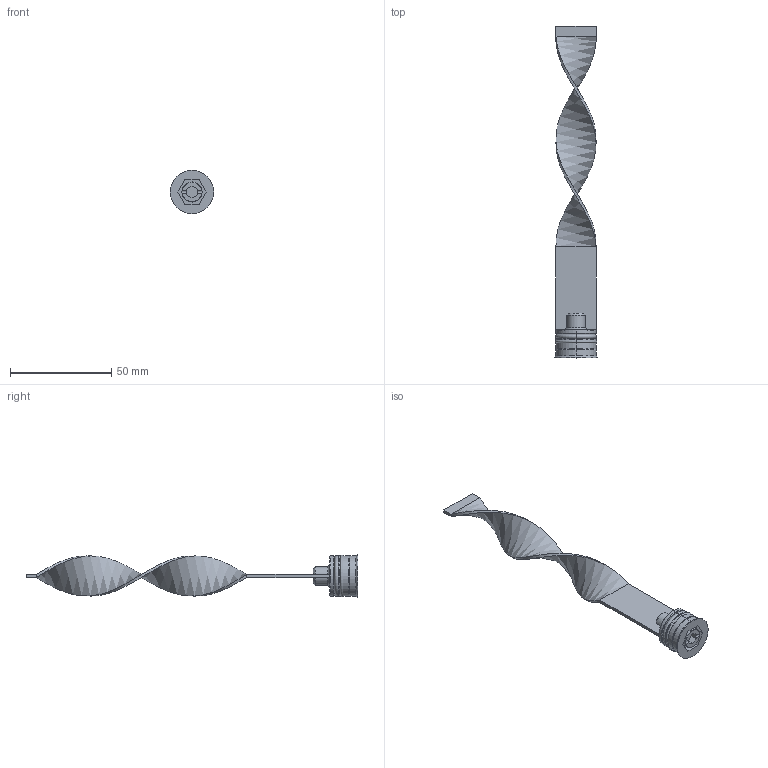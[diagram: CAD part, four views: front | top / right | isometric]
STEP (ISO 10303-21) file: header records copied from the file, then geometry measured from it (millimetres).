
FILE_DESCRIPTION (( 'STEP AP203' ), '1' );
FILE_NAME ('RLS-20Fx150.STEP', '2015-12-10T14:28:13', ( 'Balzi' ), ( '' ), 'SwSTEP 2.0', 'SolidWorks 2015', '' );
FILE_SCHEMA (( 'CONFIG_CONTROL_DESIGN' ));
Length unit declared in the file: millimetre
Products named in the file (1): RLS-20Fx150
Bounding box: 21.5 x 164 x 21.5 mm (x, y, z)
Volume: 8920.5 mm3; surface area: 8903.8 mm2
Topology: 1 solids, 1 shells, 83 faces, 193 edges, 117 vertices
Faces by surface type: plane 35, cone 19, cylinder 17, torus 8, bspline 4
Entity records: 3229 total; most frequent: CARTESIAN_POINT 1264, DIRECTION 406, ORIENTED_EDGE 386, EDGE_CURVE 193, AXIS2_PLACEMENT_3D 151, VERTEX_POINT 117, VECTOR 104, LINE 104
